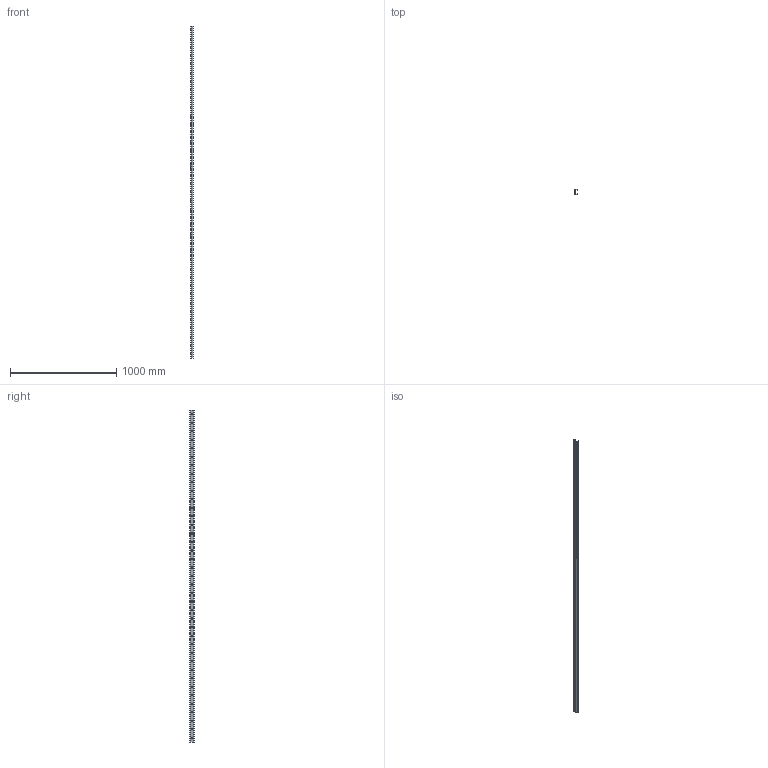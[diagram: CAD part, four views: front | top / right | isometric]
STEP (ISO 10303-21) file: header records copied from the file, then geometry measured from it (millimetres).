
FILE_DESCRIPTION (( 'STEP AP203' ), '1' );
FILE_NAME ('L1971.45U-3120.step', '2026-01-14T16:06:52', ( '' ), ( '' ), 'SwSTEP 2.0', 'SolidWorks 2019', '' );
FILE_SCHEMA (( 'CONFIG_CONTROL_DESIGN' ));
Length unit declared in the file: millimetre
Products named in the file (1): L1971.45U-3120
Bounding box: 24.5 x 44.8 x 3120 mm (x, y, z)
Volume: 1088890.9 mm3; surface area: 518402.8 mm2
Topology: 1 solids, 1 shells, 209 faces, 621 edges, 414 vertices
Faces by surface type: cylinder 121, plane 88
Entity records: 7330 total; most frequent: DIRECTION 1283, CARTESIAN_POINT 1245, ORIENTED_EDGE 1242, EDGE_CURVE 621, AXIS2_PLACEMENT_3D 452, VERTEX_POINT 414, VECTOR 379, LINE 379
